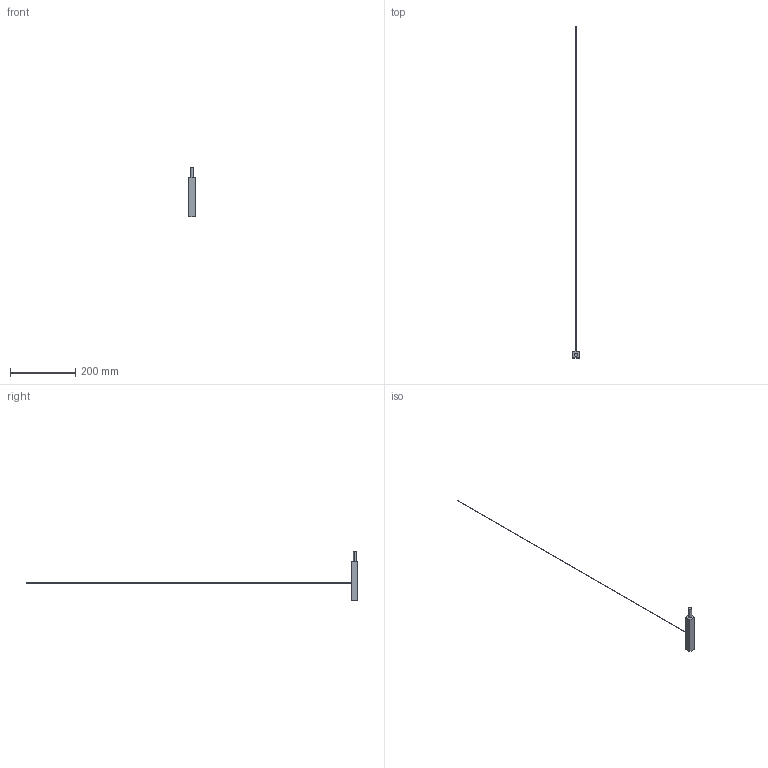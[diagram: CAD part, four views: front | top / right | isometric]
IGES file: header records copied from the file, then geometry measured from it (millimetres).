
Start section: SolidWorks IGES file using analytic representation for surfaces
Global section: file name: C:\Users\tungari.NEMOLIGHTING\Desktop\3D\SYSTEMS\3D_LINESCAPES_SYSTEMS\3D_LINESCAPES_HORIZ_END\3D_LINESCAPES_HORIZ_END.IGS; native system: SolidWorks 2016; preprocessor: SolidWorks 2016; author: tungari; date: 180302.162849; units: millimetre
Bounding box: 20 x 1015 x 151 mm (x, y, z)
Surface area: 15284.3 mm2 (no closed solid volume)
Topology: 0 solids, 0 shells, 14 faces, 136 edges, 136 vertices
Faces by surface type: bspline 10, revolution 4
